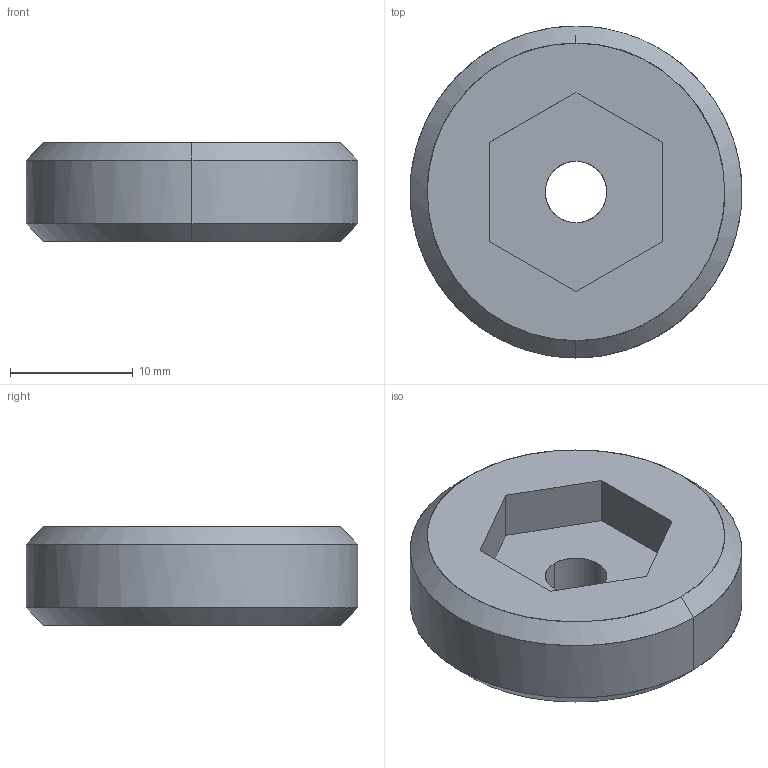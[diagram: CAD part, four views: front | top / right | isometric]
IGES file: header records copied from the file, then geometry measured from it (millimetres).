
Global section: file name: E:\UnigraphicsGraphicData\MISUMI_PRESS-PARTS\IGES\3d_mswsh27-8_00475_r00.igs; native system: NX V5.0; preprocessor: UGS NX IGES V5.0; author: MISUMI; date: 20110105.161527; units: millimetre
Bounding box: 26.98 x 27 x 8 mm (x, y, z)
Surface area: 1899.9 mm2 (no closed solid volume)
Topology: 0 solids, 0 shells, 17 faces, 100 edges, 100 vertices
Faces by surface type: bspline 17
